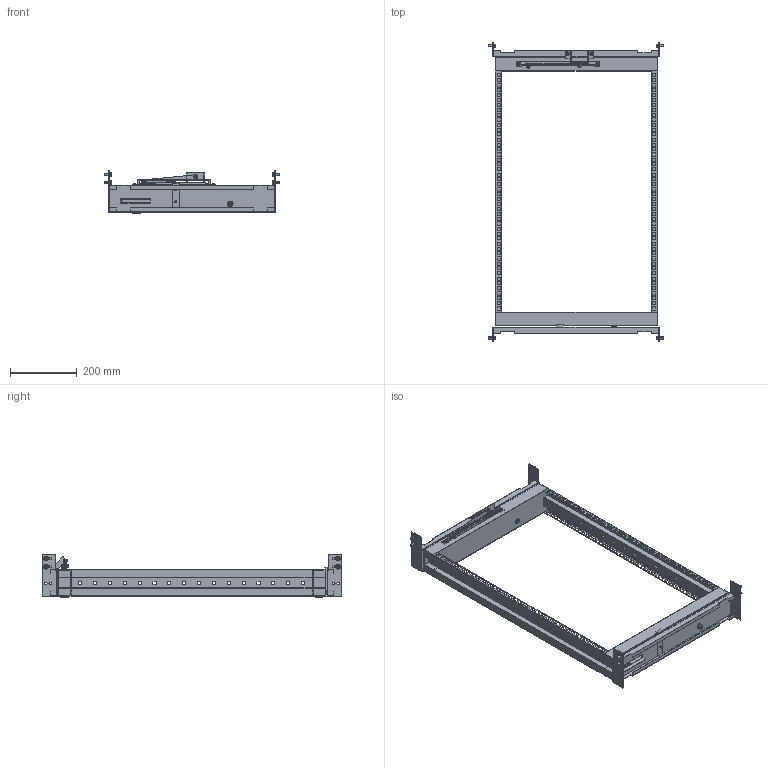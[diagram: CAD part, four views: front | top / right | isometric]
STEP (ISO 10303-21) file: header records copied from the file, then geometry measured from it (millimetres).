
FILE_DESCRIPTION(('Open CASCADE Model'),'2;1');
FILE_NAME('Open CASCADE Shape Model','2025-03-24T10:14:32',('Author'),( 'Open CASCADE'),'Open CASCADE STEP processor 7.8','Open CASCADE 7.8' ,'Unknown');
FILE_SCHEMA(('AUTOMOTIVE_DESIGN { 1 0 10303 214 1 1 1 1 }'));
Length unit declared in the file: millimetre
Products named in the file (28): Compound1; Compound2; Solid1; Solid2; Compound3; Solid3; Solid4; Solid5; Solid6; Solid7; Solid8; Solid9; Solid10; Solid11; Solid12; Solid13; Solid14; Compound4; Solid15; Solid16; Solid17; Solid18; Compound5; Solid19; Solid20; Solid21; Solid22; Solid23
Assembly tree (44 placements, depth 3):
  Compound1
    Compound2
      Solid1
      Solid2
    Compound3
      Solid3
      Solid2
    Solid4  x2
    Solid5  x2
    Solid6
    Solid7
    Solid8
    Solid9
    Solid10
    Solid11  x2
    Solid12  x4
    Solid13  x8
    Solid14
    Compound4
      Solid15
      Solid16
    Solid17
    Solid18
    Compound5
      Solid19  x2
      Solid20
      Solid21  x2
      Solid22
      Solid23  x2
Bounding box: 526 x 894.5 x 130 mm (x, y, z)
Volume: 1019444.1 mm3; surface area: 1240545.2 mm2
Topology: 40 solids, 58 shells, 3232 faces, 9153 edges, 5991 vertices
Faces by surface type: plane 2022, cylinder 594, cone 222, bspline 180, torus 156, sphere 58
Entity records: 65911 total; most frequent: CARTESIAN_POINT 17606, ORIENTED_EDGE 10098, DIRECTION 9227, EDGE_CURVE 5219, LINE 3747, VECTOR 3747, VERTEX_POINT 3452, AXIS2_PLACEMENT_3D 2740
